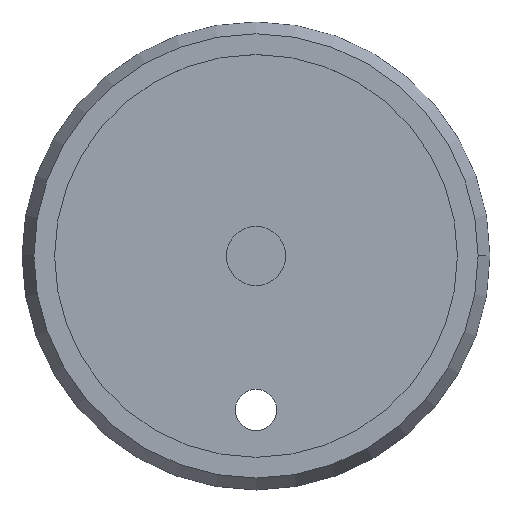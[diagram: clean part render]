
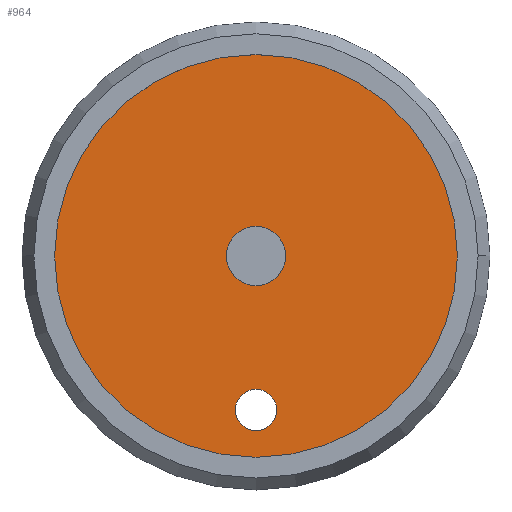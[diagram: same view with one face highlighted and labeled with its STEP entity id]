
A CAD part, top view. The second image highlights one B-rep face of the part: STEP entity #964.
In plain terms, the highlighted planar face has unit normal (0, 0, 1).
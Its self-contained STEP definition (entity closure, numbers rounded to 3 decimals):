
#13 = CARTESIAN_POINT ( 'NONE',  ( -5., 0., 5.5 ) ) ;
#18 = VERTEX_POINT ( 'NONE', #355 ) ;
#39 = CARTESIAN_POINT ( 'NONE',  ( 35., 0., 5.5 ) ) ;
#90 = CIRCLE ( 'NONE', #493, 35. ) ;
#97 = ORIENTED_EDGE ( 'NONE', *, *, #1094, .F. ) ;
#121 = AXIS2_PLACEMENT_3D ( 'NONE', #1141, #919, #931 ) ;
#130 = CIRCLE ( 'NONE', #121, 3.5 ) ;
#165 = DIRECTION ( 'NONE',  ( 0., 0., -1. ) ) ;
#217 = AXIS2_PLACEMENT_3D ( 'NONE', #271, #165, #273 ) ;
#220 = DIRECTION ( 'NONE',  ( -1., 0., 0. ) ) ;
#254 = CARTESIAN_POINT ( 'NONE',  ( -3.5, -26., 5.5 ) ) ;
#265 = DIRECTION ( 'NONE',  ( 0., 0., -1. ) ) ;
#268 = ORIENTED_EDGE ( 'NONE', *, *, #336, .F. ) ;
#271 = CARTESIAN_POINT ( 'NONE',  ( 0., 0., 5.5 ) ) ;
#273 = DIRECTION ( 'NONE',  ( -1., 0., 0. ) ) ;
#320 = DIRECTION ( 'NONE',  ( 0., 0., 1. ) ) ;
#336 = EDGE_CURVE ( 'NONE', #1016, #18, #579, .T. ) ;
#355 = CARTESIAN_POINT ( 'NONE',  ( -35., 0., 5.5 ) ) ;
#411 = EDGE_CURVE ( 'NONE', #622, #1045, #130, .T. ) ;
#450 = EDGE_CURVE ( 'NONE', #1045, #622, #694, .T. ) ;
#493 = AXIS2_PLACEMENT_3D ( 'NONE', #580, #265, #1167 ) ;
#494 = DIRECTION ( 'NONE',  ( 0., 0., -1. ) ) ;
#503 = ORIENTED_EDGE ( 'NONE', *, *, #744, .T. ) ;
#545 = CIRCLE ( 'NONE', #549, 5. ) ;
#549 = AXIS2_PLACEMENT_3D ( 'NONE', #1096, #494, #701 ) ;
#575 = CARTESIAN_POINT ( 'NONE',  ( 3.5, -26., 5.5 ) ) ;
#579 = CIRCLE ( 'NONE', #1158, 35. ) ;
#580 = CARTESIAN_POINT ( 'NONE',  ( 0., 0., 5.5 ) ) ;
#622 = VERTEX_POINT ( 'NONE', #254 ) ;
#623 = VERTEX_POINT ( 'NONE', #1276 ) ;
#694 = CIRCLE ( 'NONE', #1077, 3.5 ) ;
#701 = DIRECTION ( 'NONE',  ( -1., 0., 0. ) ) ;
#709 = FACE_BOUND ( 'NONE', #1190, .T. ) ;
#733 = DIRECTION ( 'NONE',  ( -1., 0., 0. ) ) ;
#739 = AXIS2_PLACEMENT_3D ( 'NONE', #842, #848, #761 ) ;
#744 = EDGE_CURVE ( 'NONE', #623, #807, #545, .T. ) ;
#759 = EDGE_LOOP ( 'NONE', ( #1308, #503 ) ) ;
#761 = DIRECTION ( 'NONE',  ( -1., 0., 0. ) ) ;
#786 = ORIENTED_EDGE ( 'NONE', *, *, #411, .F. ) ;
#807 = VERTEX_POINT ( 'NONE', #13 ) ;
#821 = DIRECTION ( 'NONE',  ( 0., 0., -1. ) ) ;
#829 = ORIENTED_EDGE ( 'NONE', *, *, #450, .F. ) ;
#842 = CARTESIAN_POINT ( 'NONE',  ( 0., 35., 5.5 ) ) ;
#848 = DIRECTION ( 'NONE',  ( 0., 0., -1. ) ) ;
#919 = DIRECTION ( 'NONE',  ( 0., 0., 1. ) ) ;
#931 = DIRECTION ( 'NONE',  ( -1., 0., 0. ) ) ;
#941 = EDGE_LOOP ( 'NONE', ( #97, #268 ) ) ;
#964 = ADVANCED_FACE ( 'NONE', ( #1071, #1211, #709 ), #1150, .F. ) ;
#986 = CIRCLE ( 'NONE', #217, 5. ) ;
#1016 = VERTEX_POINT ( 'NONE', #39 ) ;
#1022 = EDGE_CURVE ( 'NONE', #807, #623, #986, .T. ) ;
#1045 = VERTEX_POINT ( 'NONE', #575 ) ;
#1071 = FACE_BOUND ( 'NONE', #759, .T. ) ;
#1077 = AXIS2_PLACEMENT_3D ( 'NONE', #1227, #320, #733 ) ;
#1094 = EDGE_CURVE ( 'NONE', #18, #1016, #90, .T. ) ;
#1096 = CARTESIAN_POINT ( 'NONE',  ( 0., 0., 5.5 ) ) ;
#1141 = CARTESIAN_POINT ( 'NONE',  ( 0., -26., 5.5 ) ) ;
#1150 = PLANE ( 'NONE',  #739 ) ;
#1158 = AXIS2_PLACEMENT_3D ( 'NONE', #1231, #821, #220 ) ;
#1167 = DIRECTION ( 'NONE',  ( -1., 0., 0. ) ) ;
#1190 = EDGE_LOOP ( 'NONE', ( #786, #829 ) ) ;
#1211 = FACE_OUTER_BOUND ( 'NONE', #941, .T. ) ;
#1227 = CARTESIAN_POINT ( 'NONE',  ( 0., -26., 5.5 ) ) ;
#1231 = CARTESIAN_POINT ( 'NONE',  ( 0., 0., 5.5 ) ) ;
#1276 = CARTESIAN_POINT ( 'NONE',  ( 5., 0., 5.5 ) ) ;
#1308 = ORIENTED_EDGE ( 'NONE', *, *, #1022, .T. ) ;
